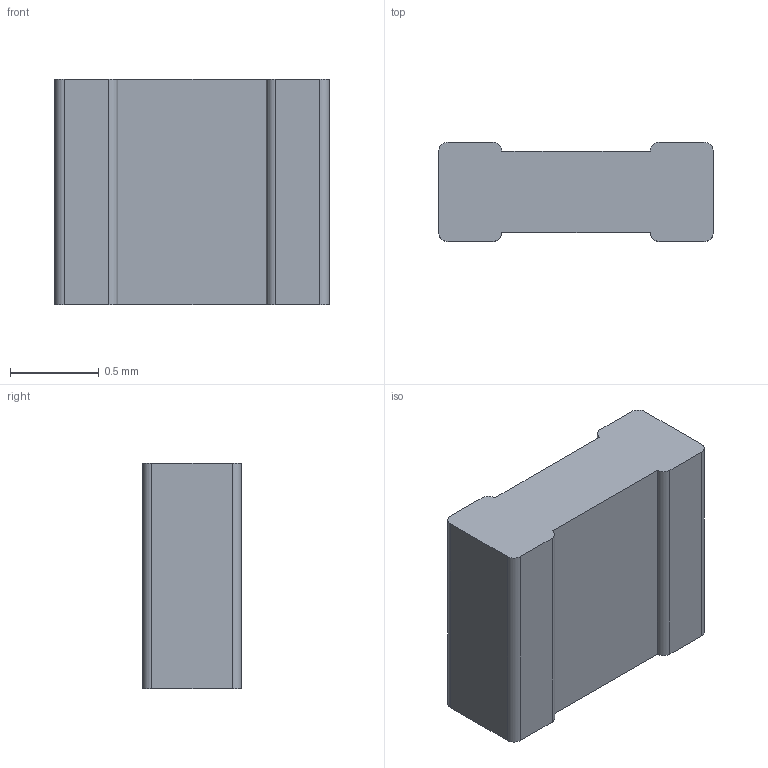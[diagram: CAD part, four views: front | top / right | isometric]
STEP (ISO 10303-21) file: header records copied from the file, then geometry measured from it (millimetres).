
FILE_DESCRIPTION (( 'STEP AP203' ), '1' );
FILE_NAME ('RX-102A-BR.STEP', '2020-05-11T15:26:12', ( '' ), ( '' ), 'SwSTEP 2.0', 'SolidWorks 2020', '' );
FILE_SCHEMA (( 'CONFIG_CONTROL_DESIGN' ));
Length unit declared in the file: millimetre
Products named in the file (1): RX-102A-BR
Bounding box: 1.55 x 0.56 x 1.27 mm (x, y, z)
Volume: 1 mm3; surface area: 6.9 mm2
Topology: 1 solids, 1 shells, 23 faces, 63 edges, 42 vertices
Faces by surface type: plane 13, cylinder 10
Entity records: 814 total; most frequent: DIRECTION 131, CARTESIAN_POINT 129, ORIENTED_EDGE 126, EDGE_CURVE 63, AXIS2_PLACEMENT_3D 44, LINE 43, VECTOR 43, VERTEX_POINT 42
